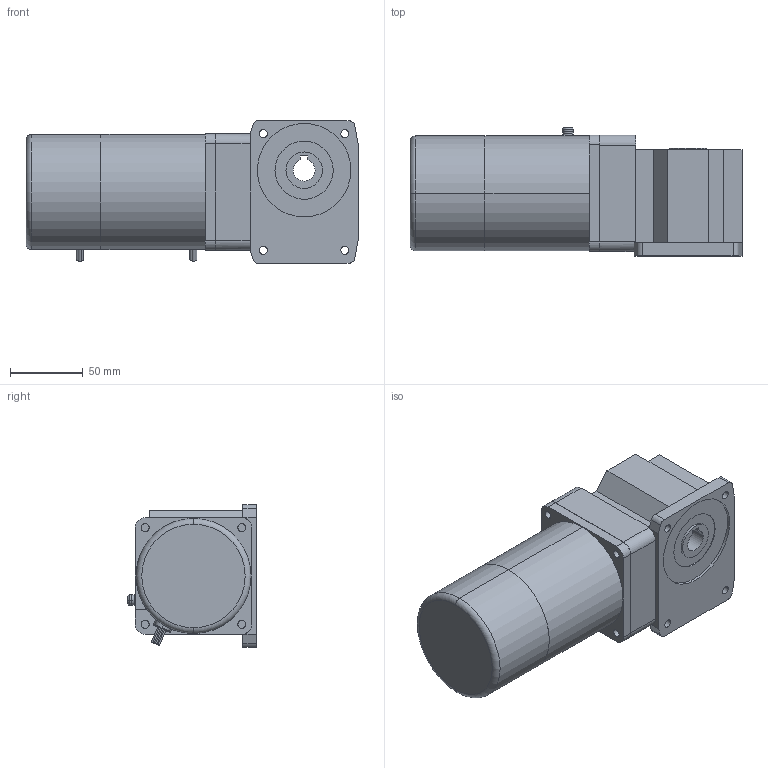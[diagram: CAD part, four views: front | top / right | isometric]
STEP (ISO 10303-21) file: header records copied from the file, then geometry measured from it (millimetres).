
FILE_DESCRIPTION(('starvars output'),'2;1');
FILE_NAME('4RK25GN-AW2MU _ 4GN150RH.stp','14:09:40 2015/05/11',( 'Thomas Industrial Network Germany GmbH'),( 'Thomas Industrial Network Germany GmbH'),'unknown preprocess','ACIS' ,'unknown authorization');
FILE_SCHEMA(('AUTOMOTIVE_DESIGN_CC2 {UNKNOWN IMPLEMENTATION LEVEL}'));
Length unit declared in the file: millimetre
Products named in the file (1): PRODUCT_ID_2272
Bounding box: 228 x 88 x 98 mm (x, y, z)
Volume: 1174198.2 mm3; surface area: 84565.5 mm2
Topology: 1 solids, 1 shells, 161 faces, 390 edges, 258 vertices
Faces by surface type: cylinder 80, plane 73, torus 8
Entity records: 5738 total; most frequent: CARTESIAN_POINT 833, ORIENTED_EDGE 780, DIRECTION 665, EDGE_CURVE 390, VERTEX_POINT 258, AXIS2_PLACEMENT_3D 230, VECTOR 205, LINE 205
